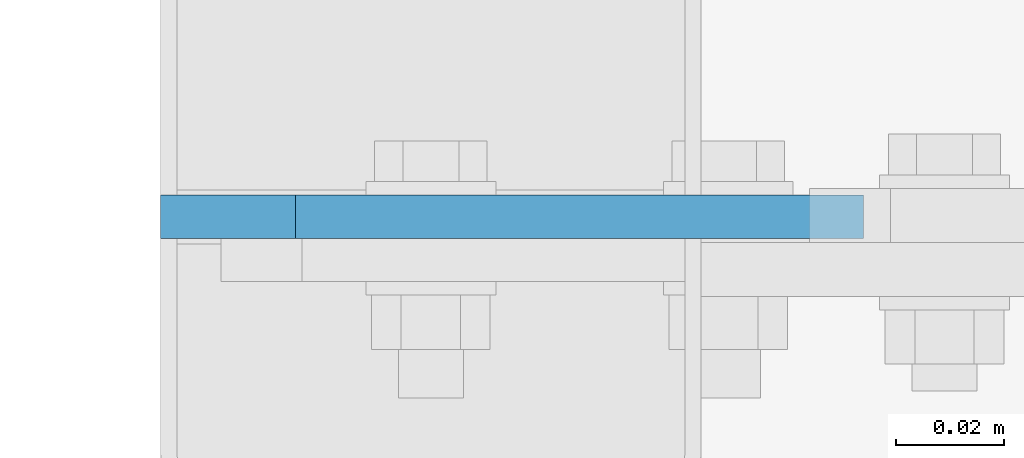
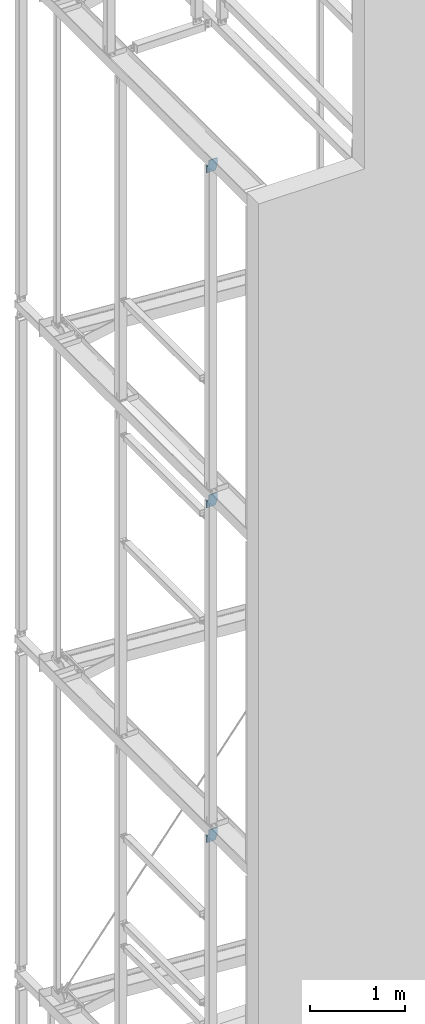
# One storey, part 102 of 271: 3 plates, 3 elements without a shape of their own.
"""IFC2X3 building model written with IfcOpenShell, lengths in millimetres."""

from ifc_helpers import new_model, si_unit, frame, origin_with_axes, place, context, subcontext, project, spatial, polyline, outline, extrude, material, type_object, element, aggregate, save


model = new_model("IFC2X3")

# Units and contexts
model_context = context("Model", 3, precision=1e-05, world=origin_with_axes())
body_context = subcontext(model_context, "Body", "Model", "MODEL_VIEW")
ifc_project = project(units=[si_unit("LENGTHUNIT", "METRE", prefix="MILLI"), si_unit("AREAUNIT", "SQUARE_METRE"), si_unit("VOLUMEUNIT", "CUBIC_METRE"), si_unit("MASSUNIT", "GRAM", prefix="KILO"), si_unit("TIMEUNIT", "SECOND"), si_unit("PLANEANGLEUNIT", "RADIAN"), si_unit("SOLIDANGLEUNIT", "STERADIAN"), si_unit("THERMODYNAMICTEMPERATUREUNIT", "DEGREE_CELSIUS"), si_unit("LUMINOUSINTENSITYUNIT", "LUMEN")], contexts=[model_context])

# Site, building, storey
site_placement = place(None, origin_with_axes())
site = spatial("IfcSite", under=ifc_project, at=site_placement, Name="Undefined", CompositionType="ELEMENT")
building_placement = place(site_placement, origin_with_axes())
building = spatial("IfcBuilding", under=site, at=building_placement, Name="Undefined", CompositionType="ELEMENT")
storey_placement = place(building_placement, origin_with_axes())
storey = spatial("IfcBuildingStorey", under=building, at=storey_placement, Name="Undefined", CompositionType="ELEMENT", Elevation=0.0)

# Assembly, plate
assembly_1_placement = place(storey_placement, origin_with_axes())
assembly_1 = element("IfcElementAssembly", 1, at=assembly_1_placement, inside=storey, AssemblyPlace="NOTDEFINED", PredefinedType="RIGID_FRAME")
ifc_material = material(Name="STEEL/S355JR")
plate_type = type_object("IfcPlateType", Name="BL8*130", PredefinedType="NOTDEFINED")
plate_1_placement = place(assembly_1_placement, frame((118.375687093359, 899.052119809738, 14156.8499999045), z_axis=(0.0, -1.0, 0.0), x_axis=(0.0, 0.0, 1.0)))
plate_1 = element("IfcPlate", 2, at=plate_1_placement, type_object=plate_type, material=ifc_material, Name="BLACHA", ObjectType="BL8*130", context=body_context, shape_type="SweptSolid", body=[
    extrude(outline(polyline([(0.0, 25.0), (70.0, -8.66862137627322e-13), (155.0, -2.06057393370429e-12), (155.0, 105.0), (94.9999999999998, 105.0), (94.9999999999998, 130.0), (-3.5527136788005e-14, 130.0), (0.0, 25.0)])), frame((0.0, 0.0, -4.0), z_axis=(0.0, 0.0, 1.0), x_axis=(1.0, 0.0, 0.0)), (0.0, 0.0, 1.0), 8.0),
])
aggregate(assembly_1, [plate_1])

assembly_2_placement = place(storey_placement, origin_with_axes())
assembly_2 = element("IfcElementAssembly", 3, at=assembly_2_placement, inside=storey, AssemblyPlace="NOTDEFINED", PredefinedType="RIGID_FRAME")
plate_2_placement = place(assembly_2_placement, frame((118.375687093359, 899.052119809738, 9836.8499999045), z_axis=(0.0, -1.0, 0.0), x_axis=(0.0, 0.0, 1.0)))
plate_2 = element("IfcPlate", 4, at=plate_2_placement, type_object=plate_type, material=ifc_material, Name="BLACHA", ObjectType="BL8*130", context=body_context, shape_type="SweptSolid", body=[
    extrude(outline(polyline([(0.0, 25.0), (70.0, -8.66862137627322e-13), (155.0, -2.06057393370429e-12), (155.0, 105.0), (94.9999999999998, 105.0), (94.9999999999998, 130.0), (-3.5527136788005e-14, 130.0), (0.0, 25.0)])), frame((0.0, 0.0, -4.0), z_axis=(0.0, 0.0, 1.0), x_axis=(1.0, 0.0, 0.0)), (0.0, 0.0, 1.0), 8.0),
])
aggregate(assembly_2, [plate_2])

assembly_3_placement = place(storey_placement, origin_with_axes())
assembly_3 = element("IfcElementAssembly", 5, at=assembly_3_placement, inside=storey, AssemblyPlace="NOTDEFINED", PredefinedType="RIGID_FRAME")
plate_3_placement = place(assembly_3_placement, frame((118.375687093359, 899.052119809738, 5516.8499999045), z_axis=(0.0, -1.0, 0.0), x_axis=(0.0, 0.0, 1.0)))
plate_3 = element("IfcPlate", 6, at=plate_3_placement, type_object=plate_type, material=ifc_material, Name="BLACHA", ObjectType="BL8*130", context=body_context, shape_type="SweptSolid", body=[
    extrude(outline(polyline([(0.0, 25.0), (70.0, -8.66862137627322e-13), (155.0, -2.06057393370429e-12), (155.0, 105.0), (94.9999999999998, 105.0), (94.9999999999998, 130.0), (-3.5527136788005e-14, 130.0), (0.0, 25.0)])), frame((0.0, 0.0, -4.0), z_axis=(0.0, 0.0, 1.0), x_axis=(1.0, 0.0, 0.0)), (0.0, 0.0, 1.0), 8.0),
])
aggregate(assembly_3, [plate_3])

save(model, "model.ifc")
